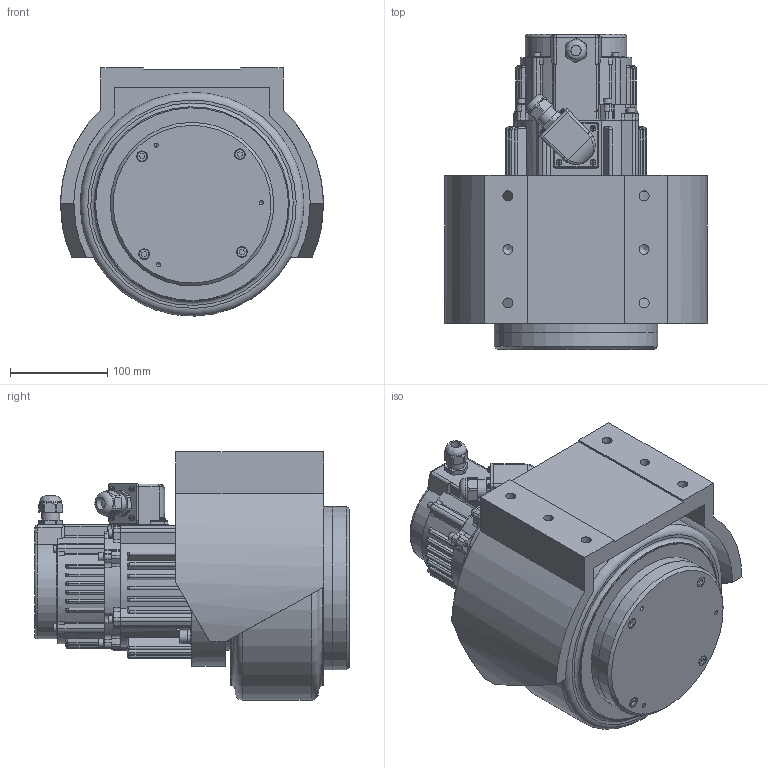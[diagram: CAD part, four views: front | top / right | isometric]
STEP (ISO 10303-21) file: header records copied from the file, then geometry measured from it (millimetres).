
FILE_DESCRIPTION(('STEP AP203'),'1');
FILE_NAME('AWRII075B-P.stp','2023-07-20T08:10:02',(' '),(' '),'Spatial InterOp 3D',' ',' ');
FILE_SCHEMA(('CONFIG_CONTROL_DESIGN'));
Length unit declared in the file: millimetre
Products named in the file (1): AWRII075B-P
Bounding box: 269.99 x 323.5 x 254.97 mm (x, y, z)
Volume: 8705109.9 mm3; surface area: 562655 mm2
Topology: 1 solids, 26 shells, 1442 faces, 3711 edges, 2423 vertices
Faces by surface type: plane 779, cylinder 497, cone 86, bspline 60, sphere 10, torus 10
Full cylindrical faces by diameter (mm): 2.5 x4, 3 x7, 3.3 x4, 3.5 x6, 4 x4, 4.2 x26, 4.5 x4, 5 x12, 5.5 x8, 5.6 x7, 6 x4, 6.5 x4, 6.75 x4, 7 x4, 8 x4, 8.4 x4, 8.5 x14, 9 x4, 9.5 x4, 10 x12, 10.25 x4, 10.4 x4, 10.5 x1, 11 x4, 12.5 x1, 13 x4, 16 x4, 18.6 x2, 18.631 x1, 20.4 x2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
Entity records: 50867 total; most frequent: CARTESIAN_POINT 16876, DIRECTION 7168, ORIENTED_EDGE 6696, EDGE_CURVE 3348, AXIS2_PLACEMENT_3D 2758, VERTEX_POINT 2331, EDGE_LOOP 1839, LINE 1652
